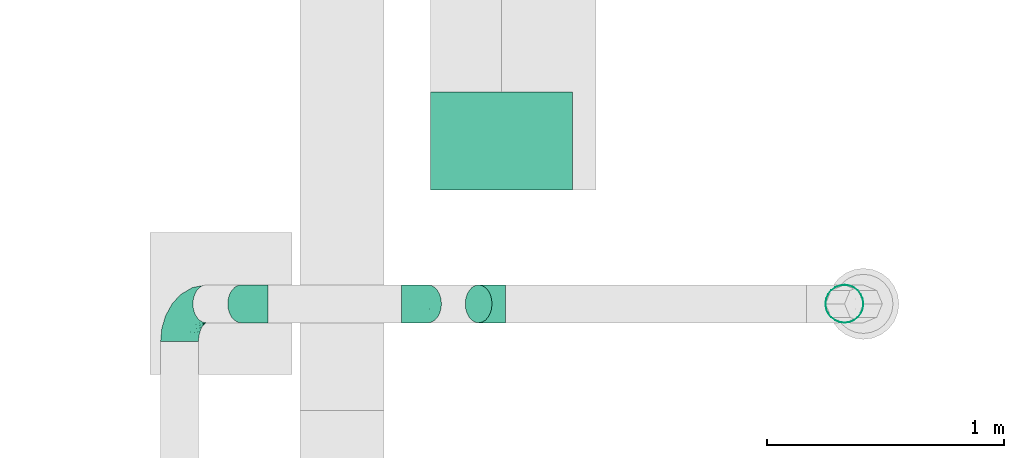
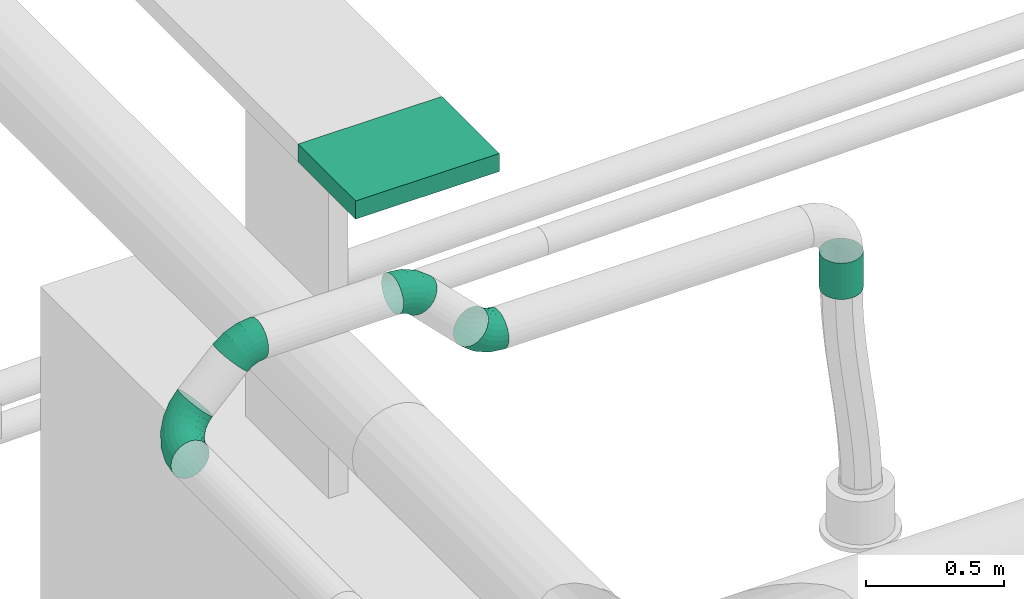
# One storey, part 77 of 374: 4 flow fittings, 1 distribution element, 1 flow segment.
"""IFC2X3 building model written with IfcOpenShell, lengths in metres."""

from ifc_helpers import new_model, si_unit, direction, frame, frame_2d, origin, place, context, subcontext, project, spatial, rectangle, extrude, open_shell, surface_model, source, transform, mapped, element, save


model = new_model("IFC2X3")

# Units and contexts
model_context = context("Model", 3, precision=1e-05, world=origin(), true_north=direction((-0.4480736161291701, 0.8939966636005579)))
body_context = subcontext(model_context, "Body", "Model", "MODEL_VIEW")
ifc_project = project(units=[si_unit("LENGTHUNIT", "METRE"), si_unit("AREAUNIT", "SQUARE_METRE"), si_unit("VOLUMEUNIT", "CUBIC_METRE"), si_unit("PLANEANGLEUNIT", "RADIAN"), si_unit("THERMODYNAMICTEMPERATUREUNIT", "KELVIN"), si_unit("MASSUNIT", "GRAM", prefix="KILO"), si_unit("TIMEUNIT", "SECOND")], contexts=[model_context])

# Site, building, storey
site_placement = place(None, origin())
site = spatial("IfcSite", under=ifc_project, at=site_placement, Name="Site 1", CompositionType="ELEMENT")
building_placement = place(site_placement, origin())
building = spatial("IfcBuilding", under=site, at=building_placement, Name="Undefined", CompositionType="ELEMENT")
storey_placement = place(building_placement, origin())
storey = spatial("IfcBuildingStorey", under=building, at=storey_placement, Name="Rez de chauss\x8ee", CompositionType="ELEMENT", Elevation=0.0)

# Flow fittings
shared_shape_1 = source(origin(), body_context, "Body", "SurfaceModel", [
    surface_model("IfcFaceBasedSurfaceModel", [(0.06265257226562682, -8.8817842e-16, 0.0), (0.062296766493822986, 0.02088115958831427, -7.105427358e-15), (0.0003558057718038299, 0.020881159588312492, 7.105427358e-15), (0.0, 0.0, 0.0), (-0.059474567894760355, 0.022956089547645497, -0.015896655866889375), (-0.06051773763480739, 0.002098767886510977, -0.01607928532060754), (-0.11311701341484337, 0.02696454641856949, -0.04660663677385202), (-0.11477645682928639, 0.006153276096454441, -0.04714207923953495), (-0.15691588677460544, 0.0326333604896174, -0.09003710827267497), (-0.15907851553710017, 0.01188721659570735, -0.09107150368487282), (-0.18788636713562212, 0.03957621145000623, -0.14322835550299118), (-0.1904048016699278, 0.01890983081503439, -0.14487384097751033), (-0.2039178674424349, 0.04731995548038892, -0.20255548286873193), (-0.20662048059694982, 0.026742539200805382, -0.20488255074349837), (0.061253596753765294, 0.04103889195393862, -0.0053597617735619), (0.0013989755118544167, 0.04103889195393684, -0.005359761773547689), (-0.05641614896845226, 0.04304393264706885, -0.02072097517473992), (-0.10825177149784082, 0.04691737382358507, -0.050396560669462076), (-0.15057538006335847, 0.05239524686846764, -0.09236417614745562), (-0.18050269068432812, 0.05910424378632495, -0.14376379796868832), (-0.19599420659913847, 0.06658715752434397, -0.20109262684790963), (0.05959415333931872, 0.05909948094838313, -0.01571402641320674), (0.003058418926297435, 0.05909948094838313, -0.01571402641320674), (-0.05155090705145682, 0.06099334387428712, -0.030223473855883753), (-0.10051228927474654, 0.06465200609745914, -0.058253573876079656), (-0.1404890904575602, 0.0698261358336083, -0.09789412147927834), (-0.16875695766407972, 0.0761631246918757, -0.14644367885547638), (-0.18338948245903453, 0.08323111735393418, -0.2005936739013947), (0.057431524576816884, 0.07383212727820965, -0.030357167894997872), (0.005221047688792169, 0.07383212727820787, -0.03035716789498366), (-0.0452104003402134, 0.07558110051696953, -0.04375657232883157), (-0.09042599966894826, 0.07895985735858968, -0.06964223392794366), (-0.12734438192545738, 0.08373814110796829, -0.10625008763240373), (-0.15344962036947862, 0.08959031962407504, -0.15108536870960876), (-0.16696268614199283, 0.0961175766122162, -0.20109262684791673), (0.054913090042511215, 0.0842328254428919, -0.048291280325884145), (0.007739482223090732, 0.08423282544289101, -0.04829128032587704), (-0.037826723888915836, 0.08581307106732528, -0.06039801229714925), (-0.07868026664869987, 0.08886587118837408, -0.08378642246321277), (-0.11203704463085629, 0.09318318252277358, -0.11686262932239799), (-0.13562384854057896, 0.09847078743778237, -0.1573725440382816), (-0.14783327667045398, 0.10436834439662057, -0.20255548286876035), (0.05221047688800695, 0.0895927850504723, -0.06829418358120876), (0.010442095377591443, 0.08959278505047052, -0.06829418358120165), (-0.029903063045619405, 0.09099196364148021, -0.07901370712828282), (-0.06607554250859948, 0.09369496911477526, -0.0997222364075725), (-0.0956102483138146, 0.0975175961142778, -0.12900851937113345), (-0.11649443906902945, 0.10219933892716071, -0.16487674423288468), (-0.12730489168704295, 0.1074211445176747, -0.2048825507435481), (0.04950786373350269, 0.08954673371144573, -0.08900271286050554), (0.013144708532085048, 0.08954673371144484, -0.08900271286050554), (-0.02197940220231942, 0.09076484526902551, -0.09833502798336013), (-0.05347081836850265, 0.09311805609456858, -0.11636367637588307), (-0.0791834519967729, 0.09644599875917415, -0.14186003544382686), (-0.09736502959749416, 0.10052187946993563, -0.17308657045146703), (-0.10677650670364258, 0.1050679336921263, -0.20791524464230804), (0.04698942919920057, 0.08409780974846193, -0.10900561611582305), (0.015663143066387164, 0.08409780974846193, -0.10900561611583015), (-0.014595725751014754, 0.08514719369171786, -0.11704525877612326), (-0.0417250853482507, 0.0871744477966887, -0.13257665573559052), (-0.06387611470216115, 0.09004141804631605, -0.15454136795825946), (-0.07953925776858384, 0.09355272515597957, -0.1814425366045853), (-0.08764709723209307, 0.09746907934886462, -0.21144689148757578), (0.04482680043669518, 0.0736173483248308, -0.12693972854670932), (0.017825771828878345, 0.0736173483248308, -0.12693972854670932), (-0.008255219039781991, 0.07452184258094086, -0.13386932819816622), (-0.03163879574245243, 0.0762691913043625, -0.14725628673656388), (-0.050731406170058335, 0.07874031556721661, -0.1661883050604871), (-0.06423192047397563, 0.08176681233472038, -0.18937519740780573), (-0.07122030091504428, 0.08514243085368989, -0.21523681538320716), (0.04316735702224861, 0.058819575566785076, -0.14158287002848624), (0.019485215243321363, 0.058819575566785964, -0.14158287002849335), (-0.0033899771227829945, 0.05961289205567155, -0.14766070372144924), (-0.02389931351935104, 0.06114546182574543, -0.15940217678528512), (-0.04064511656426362, 0.06331284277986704, -0.17600712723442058), (-0.052486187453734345, 0.06596733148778, -0.19634395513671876), (-0.05861557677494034, 0.06892802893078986, -0.2190267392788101), (0.04212418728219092, 0.040712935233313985, -0.15193713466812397), (0.020528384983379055, 0.040712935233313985, -0.15193713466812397), (-0.0003315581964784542, 0.041436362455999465, -0.15747952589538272), (-0.019034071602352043, 0.04283391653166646, -0.16818660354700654), (-0.03430460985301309, 0.04481035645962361, -0.1833286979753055), (-0.04510251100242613, 0.047230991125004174, -0.20187390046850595), (-0.05069191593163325, 0.04993085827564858, -0.22255838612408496), (0.04176838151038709, 0.02053136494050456, -0.15729689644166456), (0.020884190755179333, 0.02053136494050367, -0.15729689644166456), (0.0007116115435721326, 0.021230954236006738, -0.16265665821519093), (-0.017374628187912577, 0.022582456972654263, -0.17301092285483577), (-0.03214198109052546, 0.024493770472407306, -0.1876540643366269), (-0.042584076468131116, 0.026834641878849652, -0.20558817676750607), (-0.04798930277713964, 0.02944554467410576, -0.22559108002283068), (0.04212418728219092, -0.0003497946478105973, -0.15729689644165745), (0.020528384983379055, -0.0003497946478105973, -0.15729689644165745), (-0.0003315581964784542, 0.00037363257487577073, -0.1628392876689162), (-0.019034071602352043, 0.0017711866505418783, -0.17354636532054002), (-0.03430460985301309, 0.0037476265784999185, -0.18868845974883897), (-0.04510251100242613, 0.00616826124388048, -0.20723366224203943), (-0.05069191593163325, 0.008868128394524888, -0.22791814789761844), (0.04316735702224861, -0.020507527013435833, -0.15193713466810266), (0.019485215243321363, -0.020507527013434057, -0.15193713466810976), (-0.0033899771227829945, -0.019714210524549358, -0.15801496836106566), (-0.02389931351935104, -0.01818164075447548, -0.16975644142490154), (-0.04064511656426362, -0.01601425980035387, -0.186361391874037), (-0.052486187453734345, -0.013359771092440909, -0.20669821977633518), (-0.05861557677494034, -0.010399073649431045, -0.22938100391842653), (0.04482680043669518, -0.03856811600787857, -0.1415828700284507), (0.017825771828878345, -0.03856811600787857, -0.1415828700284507), (-0.008255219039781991, -0.03766362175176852, -0.1485124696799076), (-0.03163879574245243, -0.03591627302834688, -0.16189942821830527), (-0.050731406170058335, -0.03344514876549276, -0.1808314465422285), (-0.06423192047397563, -0.030418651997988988, -0.20401833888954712), (-0.07122030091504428, -0.027043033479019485, -0.22987995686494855), (0.04698942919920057, -0.05330076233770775, -0.12693972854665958), (0.015663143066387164, -0.05330076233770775, -0.12693972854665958), (-0.014595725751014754, -0.05225137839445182, -0.1349793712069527), (-0.0417250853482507, -0.05022412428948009, -0.15051076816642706), (-0.06387611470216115, -0.047357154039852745, -0.172475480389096), (-0.07953925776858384, -0.043845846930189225, -0.19937664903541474), (-0.08764709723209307, -0.03992949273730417, -0.2293810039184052), (0.04950786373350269, -0.06370146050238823, -0.10900561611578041), (0.013144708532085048, -0.06370146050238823, -0.10900561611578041), (-0.02197940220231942, -0.06248334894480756, -0.11833793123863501), (-0.05347081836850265, -0.06013013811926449, -0.13636657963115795), (-0.0791834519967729, -0.05680219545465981, -0.16186293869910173), (-0.09736502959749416, -0.05272631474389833, -0.1930894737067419), (-0.10677650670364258, -0.04818026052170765, -0.2279181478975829), (0.05221047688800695, -0.06906142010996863, -0.08900271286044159), (0.010442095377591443, -0.06906142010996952, -0.08900271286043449), (-0.029903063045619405, -0.06766224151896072, -0.09972223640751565), (-0.06607554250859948, -0.06495923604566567, -0.12043076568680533), (-0.0956102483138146, -0.06113660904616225, -0.14971704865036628), (-0.11649443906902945, -0.05645486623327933, -0.1855852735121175), (-0.12730489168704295, -0.05123306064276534, -0.22559108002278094), (0.054913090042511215, -0.06901536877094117, -0.06829418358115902), (0.007739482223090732, -0.06901536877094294, -0.06829418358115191), (-0.037826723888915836, -0.06743512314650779, -0.08040091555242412), (-0.07868026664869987, -0.06438232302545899, -0.10378932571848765), (-0.11203704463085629, -0.06006501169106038, -0.13686553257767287), (-0.13562384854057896, -0.0547774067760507, -0.17737544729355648), (-0.14783327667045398, -0.04887984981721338, -0.22255838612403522), (0.057431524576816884, -0.06356644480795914, -0.0482912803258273), (0.005221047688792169, -0.06356644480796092, -0.04829128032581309), (-0.0452104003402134, -0.061817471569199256, -0.0616906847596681), (-0.09042599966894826, -0.05843871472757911, -0.0875763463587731), (-0.12734438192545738, -0.05366043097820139, -0.12418420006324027), (-0.15344962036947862, -0.04780825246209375, -0.1690194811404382), (-0.16696268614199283, -0.041280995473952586, -0.21902673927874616), (0.05959415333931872, -0.05308598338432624, -0.030357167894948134), (0.003058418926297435, -0.05308598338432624, -0.030357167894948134), (-0.05155090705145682, -0.05119212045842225, -0.04486661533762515), (-0.10051228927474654, -0.04753345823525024, -0.07289671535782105), (-0.1404890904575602, -0.04235932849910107, -0.11253726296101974), (-0.16875695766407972, -0.03602233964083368, -0.16108682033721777), (-0.18338948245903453, -0.02895434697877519, -0.2152368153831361), (0.061253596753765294, -0.03828821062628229, -0.015714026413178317), (0.0013989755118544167, -0.03828821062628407, -0.015714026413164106), (-0.05641614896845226, -0.03628316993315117, -0.031075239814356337), (-0.10825177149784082, -0.03240972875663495, -0.06075082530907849), (-0.15057538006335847, -0.026931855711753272, -0.10271844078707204), (-0.18050269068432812, -0.02022285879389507, -0.15411806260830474), (-0.19599420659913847, -0.012739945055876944, -0.21144689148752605), (0.062296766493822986, -0.020181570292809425, -0.005359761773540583), (0.0003558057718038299, -0.020181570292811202, -0.0053597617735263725), (-0.059474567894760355, -0.018106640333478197, -0.021256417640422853), (-0.11311701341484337, -0.014098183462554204, -0.051966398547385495), (-0.15691588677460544, -0.00842936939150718, -0.09539687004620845), (-0.18788636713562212, -0.0014865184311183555, -0.14858811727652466), (-0.2039178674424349, 0.006257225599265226, -0.2079152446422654)], [open_shell([[[0, 1, 2, 3]], [[3, 2, 4, 5]], [[5, 4, 6, 7]], [[7, 6, 8, 9]], [[9, 8, 10, 11]], [[11, 10, 12, 13]], [[1, 14, 15, 2]], [[2, 15, 16, 4]], [[4, 16, 17, 6]], [[6, 17, 18, 8]], [[8, 18, 19, 10]], [[10, 19, 20, 12]], [[14, 21, 22, 15]], [[15, 22, 23, 16]], [[16, 23, 24, 17]], [[17, 24, 25, 18]], [[18, 25, 26, 19]], [[19, 26, 27, 20]], [[21, 28, 29, 22]], [[22, 29, 30, 23]], [[23, 30, 31, 24]], [[24, 31, 32, 25]], [[25, 32, 33, 26]], [[26, 33, 34, 27]], [[28, 35, 36, 29]], [[29, 36, 37, 30]], [[30, 37, 38, 31]], [[31, 38, 39, 32]], [[32, 39, 40, 33]], [[33, 40, 41, 34]], [[35, 42, 43, 36]], [[36, 43, 44, 37]], [[37, 44, 45, 38]], [[38, 45, 46, 39]], [[39, 46, 47, 40]], [[40, 47, 48, 41]], [[42, 49, 50, 43]], [[43, 50, 51, 44]], [[44, 51, 52, 45]], [[45, 52, 53, 46]], [[46, 53, 54, 47]], [[47, 54, 55, 48]], [[49, 56, 57, 50]], [[50, 57, 58, 51]], [[51, 58, 59, 52]], [[52, 59, 60, 53]], [[53, 60, 61, 54]], [[54, 61, 62, 55]], [[56, 63, 64, 57]], [[57, 64, 65, 58]], [[58, 65, 66, 59]], [[59, 66, 67, 60]], [[60, 67, 68, 61]], [[61, 68, 69, 62]], [[63, 70, 71, 64]], [[64, 71, 72, 65]], [[65, 72, 73, 66]], [[66, 73, 74, 67]], [[67, 74, 75, 68]], [[68, 75, 76, 69]], [[70, 77, 78, 71]], [[71, 78, 79, 72]], [[72, 79, 80, 73]], [[73, 80, 81, 74]], [[74, 81, 82, 75]], [[75, 82, 83, 76]], [[77, 84, 85, 78]], [[78, 85, 86, 79]], [[79, 86, 87, 80]], [[80, 87, 88, 81]], [[81, 88, 89, 82]], [[82, 89, 90, 83]], [[84, 91, 92, 85]], [[85, 92, 93, 86]], [[86, 93, 94, 87]], [[87, 94, 95, 88]], [[88, 95, 96, 89]], [[89, 96, 97, 90]], [[91, 98, 99, 92]], [[92, 99, 100, 93]], [[93, 100, 101, 94]], [[94, 101, 102, 95]], [[95, 102, 103, 96]], [[96, 103, 104, 97]], [[98, 105, 106, 99]], [[99, 106, 107, 100]], [[100, 107, 108, 101]], [[101, 108, 109, 102]], [[102, 109, 110, 103]], [[103, 110, 111, 104]], [[105, 112, 113, 106]], [[106, 113, 114, 107]], [[107, 114, 115, 108]], [[108, 115, 116, 109]], [[109, 116, 117, 110]], [[110, 117, 118, 111]], [[112, 119, 120, 113]], [[113, 120, 121, 114]], [[114, 121, 122, 115]], [[115, 122, 123, 116]], [[116, 123, 124, 117]], [[117, 124, 125, 118]], [[119, 126, 127, 120]], [[120, 127, 128, 121]], [[121, 128, 129, 122]], [[122, 129, 130, 123]], [[123, 130, 131, 124]], [[124, 131, 132, 125]], [[126, 133, 134, 127]], [[127, 134, 135, 128]], [[128, 135, 136, 129]], [[129, 136, 137, 130]], [[130, 137, 138, 131]], [[131, 138, 139, 132]], [[133, 140, 141, 134]], [[134, 141, 142, 135]], [[135, 142, 143, 136]], [[136, 143, 144, 137]], [[137, 144, 145, 138]], [[138, 145, 146, 139]], [[140, 147, 148, 141]], [[141, 148, 149, 142]], [[142, 149, 150, 143]], [[143, 150, 151, 144]], [[144, 151, 152, 145]], [[145, 152, 153, 146]], [[147, 154, 155, 148]], [[148, 155, 156, 149]], [[149, 156, 157, 150]], [[150, 157, 158, 151]], [[151, 158, 159, 152]], [[152, 159, 160, 153]], [[154, 161, 162, 155]], [[155, 162, 163, 156]], [[156, 163, 164, 157]], [[157, 164, 165, 158]], [[158, 165, 166, 159]], [[159, 166, 167, 160]], [[161, 0, 3, 162]], [[162, 3, 5, 163]], [[163, 5, 7, 164]], [[164, 7, 9, 165]], [[165, 9, 11, 166]], [[166, 11, 13, 167]]])]),
])
flow_fitting_1_placement = place(storey_placement, origin())
element("IfcFlowFitting", 1, at=flow_fitting_1_placement, inside=storey, Name="Coude", ObjectType="Coude", context=body_context, shape_type="MappedRepresentation", body=[
    mapped(shared_shape_1, transform((45.19941418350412, 10.287749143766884, 3.7492140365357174), x_axis=(-0.09229595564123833, -0.991444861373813, -0.09229595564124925), y_axis=(-0.6104224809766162, -0.016893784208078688, 0.7918958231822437), z_axis=(-0.7866802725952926, 0.12942830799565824, -0.6036410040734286))),
])
shared_shape_2 = source(origin(), body_context, "Body", "SurfaceModel", [
    surface_model("IfcFaceBasedSurfaceModel", [(0.06265257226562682, -8.8817842e-16, 0.0), (0.062296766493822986, 0.02088115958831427, -7.105427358e-15), (0.0003558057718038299, 0.020881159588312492, 7.105427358e-15), (0.0, 0.0, 0.0), (-0.059474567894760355, 0.022956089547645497, -0.015896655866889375), (-0.06051773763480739, 0.002098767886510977, -0.01607928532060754), (-0.11311701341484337, 0.02696454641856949, -0.04660663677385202), (-0.11477645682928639, 0.006153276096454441, -0.04714207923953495), (0.061253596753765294, 0.04103889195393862, -0.0053597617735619), (0.0013989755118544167, 0.04103889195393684, -0.005359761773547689), (-0.05641614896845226, 0.04304393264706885, -0.02072097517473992), (-0.10825177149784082, 0.04691737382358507, -0.050396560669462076), (0.05959415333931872, 0.05909948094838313, -0.01571402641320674), (0.003058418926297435, 0.05909948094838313, -0.01571402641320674), (-0.05155090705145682, 0.06099334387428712, -0.030223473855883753), (-0.10051228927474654, 0.06465200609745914, -0.058253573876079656), (0.057431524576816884, 0.07383212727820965, -0.030357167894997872), (0.005221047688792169, 0.07383212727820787, -0.03035716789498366), (-0.0452104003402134, 0.07558110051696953, -0.04375657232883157), (-0.09042599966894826, 0.07895985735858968, -0.06964223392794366), (0.054913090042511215, 0.0842328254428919, -0.048291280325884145), (0.007739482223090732, 0.08423282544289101, -0.04829128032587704), (-0.037826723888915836, 0.08581307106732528, -0.06039801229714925), (-0.07868026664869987, 0.08886587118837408, -0.08378642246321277), (0.05221047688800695, 0.0895927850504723, -0.06829418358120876), (0.010442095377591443, 0.08959278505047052, -0.06829418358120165), (-0.029903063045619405, 0.09099196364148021, -0.07901370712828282), (-0.06607554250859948, 0.09369496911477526, -0.0997222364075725), (0.04950786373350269, 0.08954673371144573, -0.08900271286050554), (0.013144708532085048, 0.08954673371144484, -0.08900271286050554), (-0.02197940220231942, 0.09076484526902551, -0.09833502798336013), (-0.05347081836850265, 0.09311805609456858, -0.11636367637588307), (0.04698942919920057, 0.08409780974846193, -0.10900561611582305), (0.015663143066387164, 0.08409780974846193, -0.10900561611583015), (-0.014595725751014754, 0.08514719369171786, -0.11704525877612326), (-0.0417250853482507, 0.0871744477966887, -0.13257665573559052), (0.04482680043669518, 0.0736173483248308, -0.12693972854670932), (0.017825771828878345, 0.0736173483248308, -0.12693972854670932), (-0.008255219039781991, 0.07452184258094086, -0.13386932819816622), (-0.03163879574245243, 0.0762691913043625, -0.14725628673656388), (0.04316735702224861, 0.058819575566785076, -0.14158287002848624), (0.019485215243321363, 0.058819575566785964, -0.14158287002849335), (-0.0033899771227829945, 0.05961289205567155, -0.14766070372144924), (-0.02389931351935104, 0.06114546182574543, -0.15940217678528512), (0.04212418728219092, 0.040712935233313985, -0.15193713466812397), (0.020528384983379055, 0.040712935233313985, -0.15193713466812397), (-0.0003315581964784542, 0.041436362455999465, -0.15747952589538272), (-0.019034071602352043, 0.04283391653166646, -0.16818660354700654), (0.04176838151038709, 0.02053136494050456, -0.15729689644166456), (0.020884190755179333, 0.02053136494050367, -0.15729689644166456), (0.0007116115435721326, 0.021230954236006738, -0.16265665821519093), (-0.017374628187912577, 0.022582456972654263, -0.17301092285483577), (0.04212418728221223, -0.000349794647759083, -0.15729689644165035), (0.020528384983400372, -0.000349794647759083, -0.15729689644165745), (-0.0003315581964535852, 0.00037363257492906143, -0.1628392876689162), (-0.019034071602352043, 0.0017711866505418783, -0.17354636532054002), (0.04316735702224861, -0.020507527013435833, -0.15193713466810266), (0.019485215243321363, -0.020507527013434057, -0.15193713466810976), (-0.0033899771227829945, -0.019714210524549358, -0.15801496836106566), (-0.02389931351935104, -0.01818164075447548, -0.16975644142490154), (0.04482680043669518, -0.03856811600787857, -0.1415828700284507), (0.017825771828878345, -0.03856811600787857, -0.1415828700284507), (-0.008255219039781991, -0.03766362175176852, -0.1485124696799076), (-0.03163879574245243, -0.03591627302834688, -0.16189942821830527), (0.04698942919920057, -0.05330076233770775, -0.12693972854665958), (0.015663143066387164, -0.05330076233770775, -0.12693972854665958), (-0.014595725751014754, -0.05225137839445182, -0.1349793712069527), (-0.0417250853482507, -0.05022412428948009, -0.15051076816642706), (0.04950786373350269, -0.06370146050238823, -0.10900561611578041), (0.013144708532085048, -0.06370146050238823, -0.10900561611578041), (-0.02197940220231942, -0.06248334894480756, -0.11833793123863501), (-0.05347081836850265, -0.06013013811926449, -0.13636657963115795), (0.05221047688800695, -0.06906142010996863, -0.08900271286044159), (0.010442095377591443, -0.06906142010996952, -0.08900271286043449), (-0.029903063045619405, -0.06766224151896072, -0.09972223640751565), (-0.06607554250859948, -0.06495923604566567, -0.12043076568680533), (0.054913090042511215, -0.06901536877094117, -0.06829418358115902), (0.007739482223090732, -0.06901536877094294, -0.06829418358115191), (-0.037826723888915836, -0.06743512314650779, -0.08040091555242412), (-0.07868026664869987, -0.06438232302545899, -0.10378932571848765), (0.057431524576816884, -0.06356644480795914, -0.0482912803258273), (0.005221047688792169, -0.06356644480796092, -0.04829128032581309), (-0.0452104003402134, -0.061817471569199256, -0.0616906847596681), (-0.09042599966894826, -0.05843871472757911, -0.0875763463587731), (0.05959415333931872, -0.05308598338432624, -0.030357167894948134), (0.003058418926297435, -0.05308598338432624, -0.030357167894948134), (-0.05155090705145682, -0.05119212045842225, -0.04486661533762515), (-0.10051228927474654, -0.04753345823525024, -0.07289671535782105), (0.061253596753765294, -0.03828821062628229, -0.015714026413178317), (0.0013989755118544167, -0.03828821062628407, -0.015714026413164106), (-0.05641614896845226, -0.03628316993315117, -0.031075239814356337), (-0.10825177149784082, -0.03240972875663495, -0.06075082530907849), (0.062296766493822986, -0.020181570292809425, -0.005359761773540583), (0.0003558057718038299, -0.020181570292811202, -0.0053597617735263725), (-0.059474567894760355, -0.018106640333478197, -0.021256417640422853), (-0.11311701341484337, -0.014098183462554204, -0.051966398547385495)], [open_shell([[[0, 1, 2, 3]], [[3, 2, 4, 5]], [[5, 4, 6, 7]], [[1, 8, 9, 2]], [[2, 9, 10, 4]], [[4, 10, 11, 6]], [[8, 12, 13, 9]], [[9, 13, 14, 10]], [[10, 14, 15, 11]], [[12, 16, 17, 13]], [[13, 17, 18, 14]], [[14, 18, 19, 15]], [[16, 20, 21, 17]], [[17, 21, 22, 18]], [[18, 22, 23, 19]], [[20, 24, 25, 21]], [[21, 25, 26, 22]], [[22, 26, 27, 23]], [[24, 28, 29, 25]], [[25, 29, 30, 26]], [[26, 30, 31, 27]], [[28, 32, 33, 29]], [[29, 33, 34, 30]], [[30, 34, 35, 31]], [[32, 36, 37, 33]], [[33, 37, 38, 34]], [[34, 38, 39, 35]], [[36, 40, 41, 37]], [[37, 41, 42, 38]], [[38, 42, 43, 39]], [[40, 44, 45, 41]], [[41, 45, 46, 42]], [[42, 46, 47, 43]], [[44, 48, 49, 45]], [[45, 49, 50, 46]], [[46, 50, 51, 47]], [[48, 52, 53, 49]], [[49, 53, 54, 50]], [[50, 54, 55, 51]], [[52, 56, 57, 53]], [[53, 57, 58, 54]], [[54, 58, 59, 55]], [[56, 60, 61, 57]], [[57, 61, 62, 58]], [[58, 62, 63, 59]], [[60, 64, 65, 61]], [[61, 65, 66, 62]], [[62, 66, 67, 63]], [[64, 68, 69, 65]], [[65, 69, 70, 66]], [[66, 70, 71, 67]], [[68, 72, 73, 69]], [[69, 73, 74, 70]], [[70, 74, 75, 71]], [[72, 76, 77, 73]], [[73, 77, 78, 74]], [[74, 78, 79, 75]], [[76, 80, 81, 77]], [[77, 81, 82, 78]], [[78, 82, 83, 79]], [[80, 84, 85, 81]], [[81, 85, 86, 82]], [[82, 86, 87, 83]], [[84, 88, 89, 85]], [[85, 89, 90, 86]], [[86, 90, 91, 87]], [[88, 92, 93, 89]], [[89, 93, 94, 90]], [[90, 94, 95, 91]], [[92, 0, 3, 93]], [[93, 3, 5, 94]], [[94, 5, 7, 95]]])]),
])
flow_fitting_2_placement = place(storey_placement, origin())
element("IfcFlowFitting", 2, at=flow_fitting_2_placement, inside=storey, Name="Coude", ObjectType="Coude", context=body_context, shape_type="MappedRepresentation", body=[
    mapped(shared_shape_2, transform((46.56569180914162, 10.385632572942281, 3.728177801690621), x_axis=(0.9914448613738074, 0.0, -0.13052619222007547), y_axis=(0.016893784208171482, -0.9915887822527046, 0.12832103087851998), z_axis=(-0.12942830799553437, -0.12942830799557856, -0.9831056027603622))),
])
flow_fitting_3_placement = place(storey_placement, origin())
element("IfcFlowFitting", 3, at=flow_fitting_3_placement, inside=storey, Name="Coude", ObjectType="Coude", context=body_context, shape_type="MappedRepresentation", body=[
    mapped(shared_shape_2, transform((46.24981087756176, 10.385632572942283, 4.17932219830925), x_axis=(-0.9914448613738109, 0.0, 0.1305261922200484), y_axis=(-0.016893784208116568, -0.9915887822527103, -0.12832103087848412), z_axis=(0.12942830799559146, -0.1294283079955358, 0.9831056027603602))),
])
flow_fitting_4_placement = place(storey_placement, origin())
element("IfcFlowFitting", 4, at=flow_fitting_4_placement, inside=storey, Name="Coude", ObjectType="Coude", context=body_context, shape_type="MappedRepresentation", body=[
    mapped(shared_shape_2, transform((45.50397431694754, 10.385632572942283, 4.155346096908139), x_axis=(-0.7933533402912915, 0.0, -0.6087614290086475), y_axis=(0.07879096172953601, -0.9915887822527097, -0.10268238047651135), z_axis=(-0.6036410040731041, -0.12942830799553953, 0.7866802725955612))),
])

# Flow segment
shared_shape_3 = source(origin(), body_context, "Body", "SurfaceModel", [
    surface_model("IfcFaceBasedSurfaceModel", [(0.0, 0.020884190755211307, 0.0), (0.0, 0.0, 0.0), (0.16000000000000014, 0.0, -4.4408921e-16), (0.16000000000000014, 0.0208841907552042, -4.4408921e-16), (0.0, -0.020172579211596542, -0.005405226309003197), (0.16000000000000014, -0.020172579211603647, -0.005405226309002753), (0.0, -0.03825881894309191, -0.015847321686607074), (0.16000000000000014, -0.03825881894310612, -0.015847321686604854), (0.0, -0.05302617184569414, -0.0306146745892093), (0.16000000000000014, -0.05302617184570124, -0.03061467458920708), (0.0, -0.06346826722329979, -0.04870091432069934), (0.16000000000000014, -0.0634682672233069, -0.04870091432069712), (0.0, -0.06887349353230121, -0.06887349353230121), (0.16000000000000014, -0.06887349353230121, -0.06887349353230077), (0.0, -0.06887349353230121, -0.08975768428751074), (0.16000000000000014, -0.06887349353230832, -0.08975768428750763), (0.0, -0.06346826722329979, -0.10993026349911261), (0.16000000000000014, -0.0634682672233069, -0.10993026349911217), (0.0, -0.05302617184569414, -0.12801650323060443), (0.16000000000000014, -0.05302617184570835, -0.1280165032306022), (0.0, -0.038258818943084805, -0.14278385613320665), (0.16000000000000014, -0.03825881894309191, -0.14278385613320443), (0.0, -0.020172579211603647, -0.15322595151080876), (0.16000000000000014, -0.020172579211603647, -0.1532259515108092), (0.0, 7.105427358e-15, -0.15863117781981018), (0.16000000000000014, -7.105427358e-15, -0.15863117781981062), (0.0, 0.020884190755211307, -0.15863117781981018), (0.16000000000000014, 0.0208841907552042, -0.15863117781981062), (0.0, 0.04105676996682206, -0.15322595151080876), (0.16000000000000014, 0.04105676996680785, -0.1532259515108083), (0.0, 0.05914300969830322, -0.1427838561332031), (0.16000000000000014, 0.05914300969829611, -0.14278385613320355), (0.0, 0.07391036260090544, -0.12801650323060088), (0.16000000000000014, 0.07391036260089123, -0.1280165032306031), (0.0, 0.0843524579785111, -0.10993026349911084), (0.16000000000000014, 0.08435245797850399, -0.10993026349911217), (0.0, 0.08975768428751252, -0.08975768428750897), (0.16000000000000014, 0.08975768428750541, -0.08975768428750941), (0.0, 0.08975768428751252, -0.06887349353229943), (0.16000000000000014, 0.08975768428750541, -0.06887349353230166), (0.0, 0.0843524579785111, -0.048700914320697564), (0.16000000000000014, 0.08435245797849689, -0.04870091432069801), (0.0, 0.07391036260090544, -0.030614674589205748), (0.16000000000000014, 0.07391036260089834, -0.03061467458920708), (0.0, 0.05914300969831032, -0.015847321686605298), (0.16000000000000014, 0.05914300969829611, -0.01584732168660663), (0.0, 0.04105676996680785, -0.005405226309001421), (0.16000000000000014, 0.04105676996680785, -0.005405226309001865)], [open_shell([[[0, 1, 2, 3]], [[1, 4, 5, 2]], [[4, 6, 7, 5]], [[6, 8, 9, 7]], [[8, 10, 11, 9]], [[10, 12, 13, 11]], [[12, 14, 15, 13]], [[14, 16, 17, 15]], [[16, 18, 19, 17]], [[18, 20, 21, 19]], [[20, 22, 23, 21]], [[22, 24, 25, 23]], [[24, 26, 27, 25]], [[26, 28, 29, 27]], [[28, 30, 31, 29]], [[30, 32, 33, 31]], [[32, 34, 35, 33]], [[34, 36, 37, 35]], [[36, 38, 39, 37]], [[38, 40, 41, 39]], [[40, 42, 43, 41]], [[42, 44, 45, 43]], [[44, 46, 47, 45]], [[46, 0, 3, 47]]])]),
])
flow_segment_placement = place(storey_placement, origin())
element("IfcFlowSegment", 5, at=flow_segment_placement, inside=storey, Name="Tube", ObjectType="Tube", context=body_context, shape_type="MappedRepresentation", body=[
    mapped(shared_shape_3, transform((47.983934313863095, 10.364927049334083, 3.4800000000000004), x_axis=(0.0, 0.0, 1.0), y_axis=(-0.13052619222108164, 0.9914448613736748, 0.0), z_axis=(-0.9914448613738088, -0.13052619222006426, 0.0))),
])

# Distribution element
distribution_element_placement = place(storey_placement, origin())
element("IfcDistributionElement", 6, at=distribution_element_placement, inside=storey, Name="Chemin(s) de câbles", ObjectType="Chemin(s) de câbles", context=body_context, shape_type="SweptSolid", body=[
    extrude(rectangle(XDim=0.6, YDim=0.08, at=frame_2d((3.552713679e-15, 0.0), x_axis=(-1.0, 0.0))), frame((46.611000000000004, 11.281730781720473, 4.14), z_axis=(0.0, -1.0, 0.0), x_axis=(1.0, 0.0, 0.0)), (0.0, 0.0, 1.0), 0.41513628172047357),
])

save(model, "model.ifc")
